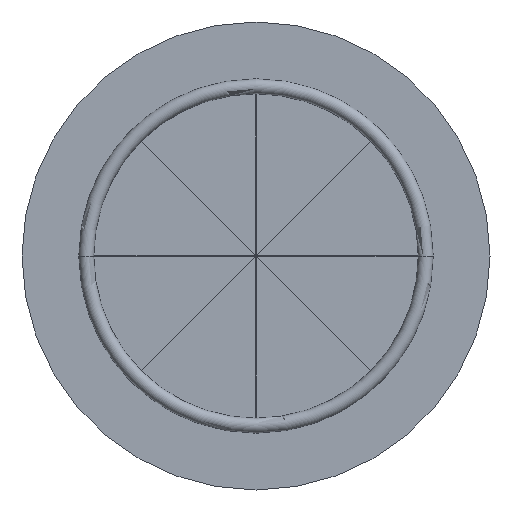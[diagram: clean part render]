
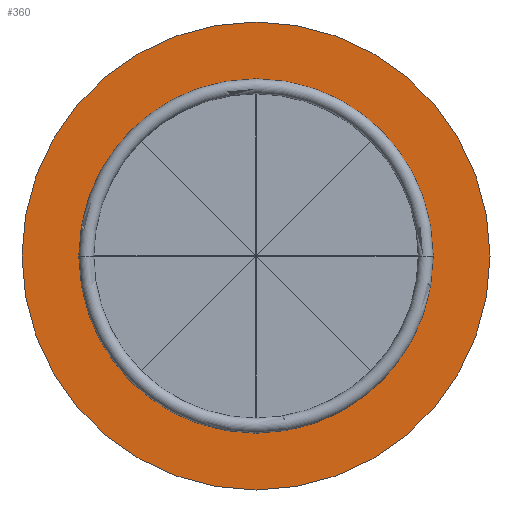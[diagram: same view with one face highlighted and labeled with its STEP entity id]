
A CAD part, front view. The second image highlights one B-rep face of the part: STEP entity #360.
In plain terms, the highlighted planar face has unit normal (0, -1, 0).
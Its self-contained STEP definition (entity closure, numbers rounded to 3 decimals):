
#10=CARTESIAN_POINT('',(91.915,40.41,0.));
#20=DIRECTION('',(-0.,-1.,-0.));
#30=DIRECTION('',(-1.,0.,0.));
#40=AXIS2_PLACEMENT_3D('',#10,#20,#30);
#50=PLANE('',#40);
#60=CARTESIAN_POINT('',(78.165,40.41,0.));
#70=DIRECTION('',(0.,1.,0.));
#80=DIRECTION('',(1.,0.,0.));
#90=AXIS2_PLACEMENT_3D('',#60,#70,#80);
#100=CIRCLE('',#90,11.85);
#110=CARTESIAN_POINT('',(90.015,40.41,0.));
#120=VERTEX_POINT('',#110);
#130=CARTESIAN_POINT('',(66.315,40.41,0.));
#140=VERTEX_POINT('',#130);
#150=EDGE_CURVE('',#120,#140,#100,.T.);
#160=ORIENTED_EDGE('',*,*,#150,.T.);
#170=EDGE_CURVE('',#140,#120,#100,.T.);
#180=ORIENTED_EDGE('',*,*,#170,.T.);
#190=EDGE_LOOP('',(#180,#160));
#200=FACE_BOUND('',#190,.T.);
#210=CARTESIAN_POINT('',(78.165,40.41,0.));
#220=DIRECTION('',(0.,1.,0.));
#230=DIRECTION('',(1.,0.,0.));
#240=AXIS2_PLACEMENT_3D('',#210,#220,#230);
#250=CIRCLE('',#240,15.65);
#260=CARTESIAN_POINT('',(93.815,40.41,0.));
#270=VERTEX_POINT('',#260);
#280=CARTESIAN_POINT('',(62.515,40.41,0.));
#290=VERTEX_POINT('',#280);
#300=EDGE_CURVE('',#270,#290,#250,.T.);
#310=ORIENTED_EDGE('',*,*,#300,.F.);
#320=EDGE_CURVE('',#290,#270,#250,.T.);
#330=ORIENTED_EDGE('',*,*,#320,.F.);
#340=EDGE_LOOP('',(#330,#310));
#350=FACE_OUTER_BOUND('',#340,.T.);
#360=ADVANCED_FACE('',(#200,#350),#50,.T.);
